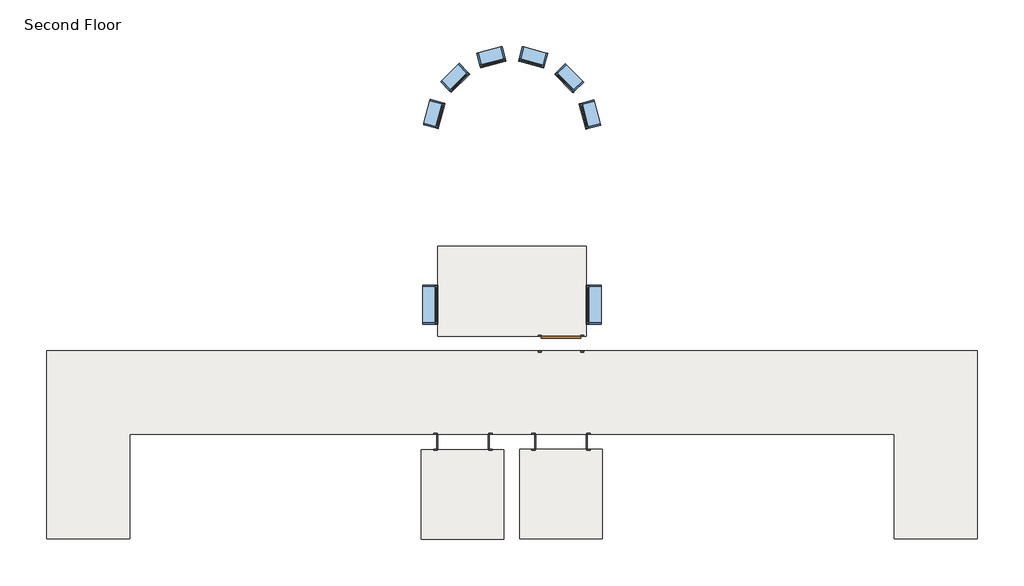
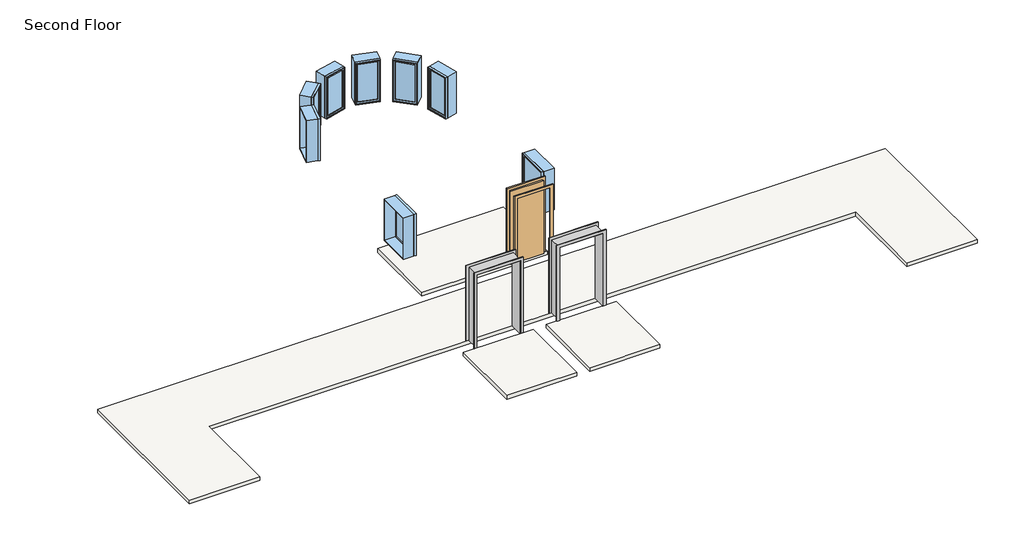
# One storey: 8 windows, 2 proxies, 1 door, 1 slab.
"""IFC4 building model written with IfcOpenShell, lengths in millimetres."""

from ifc_helpers import new_model, si_unit, frame, origin, place, context, project, spatial, polyline, outline, extrude, transform, mapped, element, save
from components import proxy_c3589814, door_632be17d, window_60baf983, window_15c49d37

model = new_model("IFC4")

# Units and contexts
model_context = context("Model", 3, world=origin())
ifc_project = project(units=[si_unit("LENGTHUNIT", "METRE", prefix="MILLI")], contexts=[model_context])

# Site, building, storey
site = spatial("IfcSite", under=ifc_project)
building = spatial("IfcBuilding", under=site)
storey = spatial("IfcBuildingStorey", under=building, Name="Second Floor", Elevation=3048.0)

# Proxies
placement = place(None, origin())
proxy_shape = proxy_c3589814(model_context)
element("IfcBuildingElementProxy", 1, Name="Opening-Cased : 48\" x 84\"", ObjectType="Opening-Cased : 48\" x 84\"", at=placement, inside=storey, context=model_context, shape_type="MappedRepresentation", body=[
    mapped(proxy_shape, transform((-7396.8036255, 2429.9758812, 3048.0), x_axis=(-1.0, 0.0, 0.0), y_axis=(0.0, -1.0, 0.0), z_axis=(0.0, 0.0, 1.0))),
])
element("IfcBuildingElementProxy", 2, Name="Opening-Cased : 48\" x 84\"", ObjectType="Opening-Cased : 48\" x 84\"", at=placement, inside=storey, context=model_context, shape_type="MappedRepresentation", body=[
    mapped(proxy_shape, transform((-5110.8036255, 2429.9758812, 3048.0), x_axis=(-1.0, 0.0, 0.0), y_axis=(0.0, -1.0, 0.0), z_axis=(0.0, 0.0, 1.0))),
])

# Door
door_shape = door_632be17d(model_context)
element("IfcDoor", 3, ObjectType="Single-Flush : 36\" x 84\"", at=placement, inside=storey, context=model_context, shape_type="MappedRepresentation", body=[
    mapped(door_shape, transform((-5102.6149687, 4715.9758812, 3048.0), x_axis=(1.0, 0.0, 0.0), y_axis=(0.0, 1.0, 0.0), z_axis=(0.0, 0.0, 1.0))),
])

# Slab
element("IfcSlab", 4, ObjectType="LW Concrete on Metal Deck", at=placement, inside=storey, context=model_context, shape_type="SweptSolid", body=[
    extrude(outline(polyline([(-17118.4024687, 4552.4633812), (4627.1725313, 4552.4633812), (4627.1725313, 167.7883812), (2680.8975313, 167.7883812), (2680.8975313, 2606.1883812), (-15172.1274687, 2606.1883812), (-15172.1274687, 167.7883812), (-17118.4024687, 167.7883812), (-17118.4024687, 4552.4633812)])), frame((0.0, 0.0, 2943.225), z_axis=(0.0, 0.0, 1.0), x_axis=(1.0, 0.0, 0.0)), (0.0, 0.0, 1.0), 104.775),
    extrude(outline(polyline([(-8368.1024687, 155.0883812), (-8368.1024687, 2237.8883812), (-6437.7024687, 2237.8883812), (-6437.7024687, 155.0883812), (-8368.1024687, 155.0883812)])), frame((0.0, 0.0, 2943.225), z_axis=(0.0, 0.0, 1.0), x_axis=(1.0, 0.0, 0.0)), (0.0, 0.0, 1.0), 104.775),
    extrude(outline(polyline([(-4135.8274687, 2253.7633812), (-4135.8274687, 167.7883812), (-6069.4024687, 167.7883812), (-6069.4024687, 2253.7633812), (-4135.8274687, 2253.7633812)])), frame((0.0, 0.0, 2943.225), z_axis=(0.0, 0.0, 1.0), x_axis=(1.0, 0.0, 0.0)), (0.0, 0.0, 1.0), 104.775),
    extrude(outline(polyline([(-4516.8274687, 7001.9758812), (-4516.8274687, 4892.1883812), (-7974.4024687, 4892.1883812), (-7974.4024687, 7001.9758812), (-4516.8274687, 7001.9758812)])), frame((0.0, 0.0, 2943.225), z_axis=(0.0, 0.0, 1.0), x_axis=(1.0, 0.0, 0.0)), (0.0, 0.0, 1.0), 104.775),
])

# Windows
window_shape = window_60baf983(model_context)
element("IfcWindow", 5, ObjectType="Fixed : 24\" x 48\"", at=placement, inside=storey, context=model_context, shape_type="MappedRepresentation", body=[
    mapped(window_shape, transform((-8072.5076754, 10048.7859441, 3048.0), x_axis=(-0.2617614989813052, -0.9651325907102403, 0.0), y_axis=(0.9651325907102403, -0.2617614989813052, 0.0), z_axis=(0.0, 0.0, 1.0))),
])
element("IfcWindow", 6, ObjectType="Fixed : 24\" x 48\"", at=placement, inside=storey, context=model_context, shape_type="MappedRepresentation", body=[
    mapped(window_shape, transform((-7599.7454312, 10901.1385333, 3048.0), x_axis=(-0.7092584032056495, -0.7049485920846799, 0.0), y_axis=(0.7049485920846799, -0.7092584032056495, 0.0), z_axis=(0.0, 0.0, 1.0))),
])
element("IfcWindow", 7, ObjectType="Fixed : 24\" x 48\"", at=placement, inside=storey, context=model_context, shape_type="MappedRepresentation", body=[
    mapped(window_shape, transform((-6764.1450232, 11402.9164066, 3048.0), x_axis=(-0.96671009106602, -0.25587418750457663, 0.0), y_axis=(0.25587418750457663, -0.96671009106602, 0.0), z_axis=(0.0, 0.0, 1.0))),
])
element("IfcWindow", 8, ObjectType="Fixed : 24\" x 48\"", at=placement, inside=storey, context=model_context, shape_type="MappedRepresentation", body=[
    mapped(window_shape, transform((-5789.6049059, 11419.6685878, 3048.0), x_axis=(-0.9651325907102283, 0.2617614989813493, 0.0), y_axis=(-0.2617614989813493, -0.9651325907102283, 0.0), z_axis=(0.0, 0.0, 1.0))),
])
element("IfcWindow", 9, ObjectType="Fixed : 24\" x 48\"", at=placement, inside=storey, context=model_context, shape_type="MappedRepresentation", body=[
    mapped(window_shape, transform((-4937.2523166, 10946.9063437, 3048.0), x_axis=(-0.7049485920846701, 0.7092584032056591, 0.0), y_axis=(-0.7092584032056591, -0.7049485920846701, 0.0), z_axis=(0.0, 0.0, 1.0))),
])
element("IfcWindow", 10, ObjectType="Fixed : 24\" x 48\"", at=placement, inside=storey, context=model_context, shape_type="MappedRepresentation", body=[
    mapped(window_shape, transform((-4435.4744434, 10111.3059357, 3048.0), x_axis=(-0.25587418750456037, 0.9667100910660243, 0.0), y_axis=(-0.9667100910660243, -0.25587418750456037, 0.0), z_axis=(0.0, 0.0, 1.0))),
])
window_2_shape = window_15c49d37(model_context)
element("IfcWindow", 11, ObjectType="Fixed : 36\" x 48\"", at=placement, inside=storey, context=model_context, shape_type="MappedRepresentation", body=[
    mapped(window_2_shape, transform((-8150.6149687, 5592.2758812, 3048.0), x_axis=(0.0, -1.0, 0.0), y_axis=(1.0, 0.0, 0.0), z_axis=(0.0, 0.0, 1.0))),
])
element("IfcWindow", 12, ObjectType="Fixed : 36\" x 48\"", at=placement, inside=storey, context=model_context, shape_type="MappedRepresentation", body=[
    mapped(window_2_shape, transform((-4340.6149687, 5668.4758812, 3048.0), x_axis=(0.0, 1.0, 0.0), y_axis=(-1.0, 0.0, 0.0), z_axis=(0.0, 0.0, 1.0))),
])

save(model, "model.ifc")
